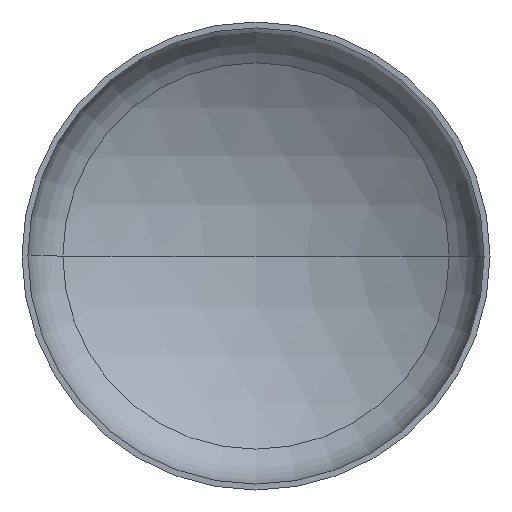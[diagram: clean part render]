
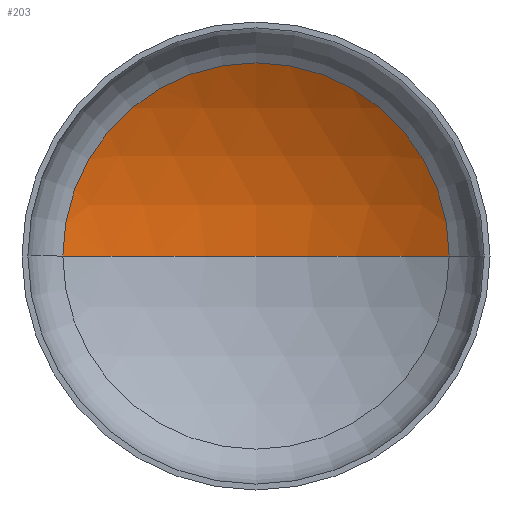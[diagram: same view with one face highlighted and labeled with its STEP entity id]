
A CAD part, front view. The second image highlights one B-rep face of the part: STEP entity #203.
In plain terms, the highlighted spherical face has radius 5600 mm.
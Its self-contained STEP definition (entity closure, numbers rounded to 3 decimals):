
#13 = DIRECTION ( 'NONE',  ( 0., 0., -1. ) ) ;
#19 = CARTESIAN_POINT ( 'NONE',  ( 0., -3771.973, 0. ) ) ;
#28 = AXIS2_PLACEMENT_3D ( 'NONE', #263, #172, #42 ) ;
#41 = ORIENTED_EDGE ( 'NONE', *, *, #153, .T. ) ;
#42 = DIRECTION ( 'NONE',  ( -1., 0., 0. ) ) ;
#44 = DIRECTION ( 'NONE',  ( 1., 0., 0. ) ) ;
#45 = VERTEX_POINT ( 'NONE', #264 ) ;
#52 = VERTEX_POINT ( 'NONE', #338 ) ;
#71 = AXIS2_PLACEMENT_3D ( 'NONE', #19, #13, #396 ) ;
#73 = AXIS2_PLACEMENT_3D ( 'NONE', #249, #275, #44 ) ;
#77 = AXIS2_PLACEMENT_3D ( 'NONE', #189, #190, #192 ) ;
#92 = ORIENTED_EDGE ( 'NONE', *, *, #155, .F. ) ;
#96 = VERTEX_POINT ( 'NONE', #220 ) ;
#105 = EDGE_LOOP ( 'NONE', ( #92, #41, #135 ) ) ;
#135 = ORIENTED_EDGE ( 'NONE', *, *, #149, .T. ) ;
#149 = EDGE_CURVE ( 'NONE', #52, #96, #407, .T. ) ;
#153 = EDGE_CURVE ( 'NONE', #45, #52, #399, .T. ) ;
#155 = EDGE_CURVE ( 'NONE', #45, #96, #235, .T. ) ;
#172 = DIRECTION ( 'NONE',  ( 0., 0., -1. ) ) ;
#189 = CARTESIAN_POINT ( 'NONE',  ( 0., 1025.162, 0. ) ) ;
#190 = DIRECTION ( 'NONE',  ( 0., -1., 0. ) ) ;
#192 = DIRECTION ( 'NONE',  ( 1., 0., 0. ) ) ;
#203 = ADVANCED_FACE ( 'NONE', ( #282 ), #392, .F. ) ;
#220 = CARTESIAN_POINT ( 'NONE',  ( -2889.204, 1025.162, 0. ) ) ;
#235 = CIRCLE ( 'NONE', #73, 5600. ) ;
#249 = CARTESIAN_POINT ( 'NONE',  ( 0., -3771.973, 0. ) ) ;
#263 = CARTESIAN_POINT ( 'NONE',  ( 0., -3771.973, 0. ) ) ;
#264 = CARTESIAN_POINT ( 'NONE',  ( 0., 1828.027, 0. ) ) ;
#275 = DIRECTION ( 'NONE',  ( 0., 0., 1. ) ) ;
#282 = FACE_OUTER_BOUND ( 'NONE', #105, .T. ) ;
#338 = CARTESIAN_POINT ( 'NONE',  ( 2889.204, 1025.162, 0. ) ) ;
#392 = SPHERICAL_SURFACE ( 'NONE', #28, 5600. ) ;
#396 = DIRECTION ( 'NONE',  ( -1., 0., 0. ) ) ;
#399 = CIRCLE ( 'NONE', #71, 5600. ) ;
#407 = CIRCLE ( 'NONE', #77, 2889.204 ) ;
